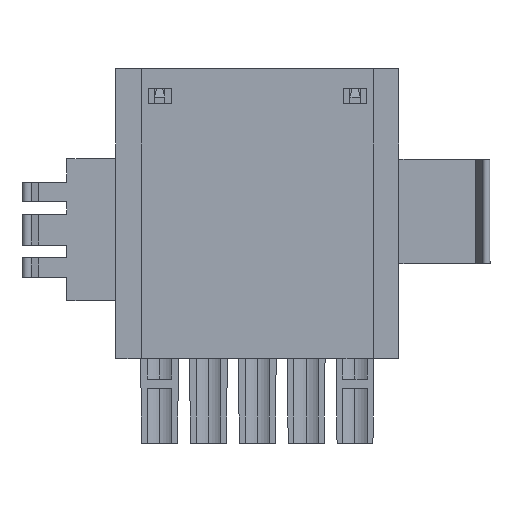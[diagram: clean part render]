
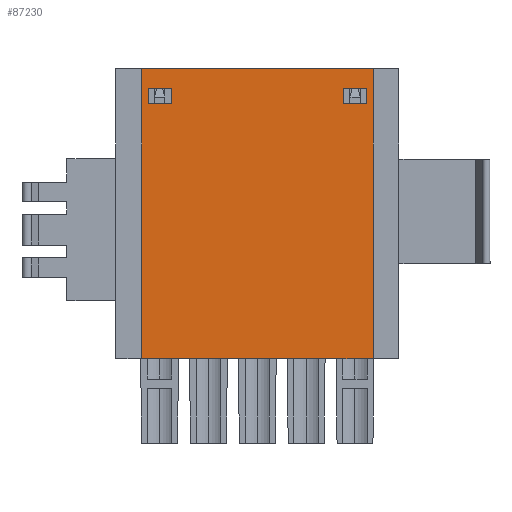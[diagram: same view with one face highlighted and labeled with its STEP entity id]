
A CAD part, front view. The second image highlights one B-rep face of the part: STEP entity #87230.
In plain terms, the highlighted planar face has unit normal (0, -1, 0).
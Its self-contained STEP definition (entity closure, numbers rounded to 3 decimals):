
#71780=CARTESIAN_POINT('',(-79.801,-2.817,10.825));
#71790=VERTEX_POINT('',#71780);
#71820=CARTESIAN_POINT('',(-79.801,-2.817,
-5.825));
#71830=DIRECTION('',(0.,0.,1.));
#71840=VECTOR('',#71830,1.);
#71850=LINE('',#71820,#71840);
#71860=CARTESIAN_POINT('',(-79.801,-2.817,
-7.235));
#71870=VERTEX_POINT('',#71860);
#71880=EDGE_CURVE('',#71870,#71790,#71850,.T.);
#72460=CARTESIAN_POINT('',(-58.701,-2.817,
-4.934));
#72470=VERTEX_POINT('',#72460);
#72500=CARTESIAN_POINT('',(-58.701,-2.817,
-5.825));
#72510=DIRECTION('',(0.,0.,1.));
#72520=VECTOR('',#72510,1.);
#72530=LINE('',#72500,#72520);
#72540=CARTESIAN_POINT('',(-58.701,-2.817,
-6.734));
#72550=VERTEX_POINT('',#72540);
#72560=EDGE_CURVE('',#72550,#72470,#72530,.T.);
#72830=CARTESIAN_POINT('',(-66.93,-2.817,
-7.235));
#72840=DIRECTION('',(1.,0.,0.));
#72850=VECTOR('',#72840,1.);
#72860=LINE('',#72830,#72850);
#72870=CARTESIAN_POINT('',(-57.201,-2.817,
-7.235));
#72880=VERTEX_POINT('',#72870);
#72890=EDGE_CURVE('',#71870,#72880,#72860,.T.);
#78640=CARTESIAN_POINT('',(-59.901,-2.817,
-6.734));
#78650=VERTEX_POINT('',#78640);
#78700=CARTESIAN_POINT('',(-59.901,-2.817,
-5.825));
#78710=DIRECTION('',(0.,0.,-1.));
#78720=VECTOR('',#78710,1.);
#78730=LINE('',#78700,#78720);
#78740=CARTESIAN_POINT('',(-59.901,-2.817,
-4.934));
#78750=VERTEX_POINT('',#78740);
#78760=EDGE_CURVE('',#78750,#78650,#78730,.T.);
#86370=CARTESIAN_POINT('',(-57.201,-2.817,
10.825));
#86380=VERTEX_POINT('',#86370);
#86410=CARTESIAN_POINT('',(-61.93,-2.817,
10.825));
#86420=DIRECTION('',(1.,0.,0.));
#86430=VECTOR('',#86420,1.);
#86440=LINE('',#86410,#86430);
#86450=EDGE_CURVE('',#71790,#86380,#86440,.T.);
#86570=CARTESIAN_POINT('',(-65.144,-2.817,
7.647));
#86580=DIRECTION('',(0.,-1.,0.));
#86590=DIRECTION('',(0.,0.,-1.));
#86600=AXIS2_PLACEMENT_3D('',#86570,#86580,#86590);
#86610=PLANE('',#86600);
#86620=CARTESIAN_POINT('',(-57.201,-2.817,
-5.825));
#86630=DIRECTION('',(0.,0.,-1.));
#86640=VECTOR('',#86630,1.);
#86650=LINE('',#86620,#86640);
#86660=EDGE_CURVE('',#86380,#72880,#86650,.T.);
#86670=ORIENTED_EDGE('',*,*,#86660,.F.);
#86680=ORIENTED_EDGE('',*,*,#72890,.T.);
#86690=ORIENTED_EDGE('',*,*,#71880,.F.);
#86700=ORIENTED_EDGE('',*,*,#86450,.F.);
#86710=EDGE_LOOP('',(#86700,#86690,#86680,#86670));
#86720=FACE_OUTER_BOUND('',#86710,.T.);
#86730=CARTESIAN_POINT('',(-61.93,-2.817,
-4.934));
#86740=DIRECTION('',(-1.,0.,0.));
#86750=VECTOR('',#86740,1.);
#86760=LINE('',#86730,#86750);
#86770=EDGE_CURVE('',#72470,#78750,#86760,.T.);
#86780=ORIENTED_EDGE('',*,*,#86770,.F.);
#86790=ORIENTED_EDGE('',*,*,#78760,.F.);
#86800=CARTESIAN_POINT('',(-61.93,-2.817,
-6.734));
#86810=DIRECTION('',(1.,0.,0.));
#86820=VECTOR('',#86810,1.);
#86830=LINE('',#86800,#86820);
#86840=EDGE_CURVE('',#78650,#72550,#86830,.T.);
#86850=ORIENTED_EDGE('',*,*,#86840,.F.);
#86860=ORIENTED_EDGE('',*,*,#72560,.F.);
#86870=EDGE_LOOP('',(#86860,#86850,#86790,#86780));
#86880=FACE_BOUND('',#86870,.T.);
#86890=CARTESIAN_POINT('',(-58.701,-2.817,
-5.825));
#86900=DIRECTION('',(0.,0.,1.));
#86910=VECTOR('',#86900,1.);
#86920=LINE('',#86890,#86910);
#86930=CARTESIAN_POINT('',(-58.701,-2.817,
8.506));
#86940=VERTEX_POINT('',#86930);
#86950=CARTESIAN_POINT('',(-58.701,-2.817,
10.306));
#86960=VERTEX_POINT('',#86950);
#86970=EDGE_CURVE('',#86940,#86960,#86920,.T.);
#86980=ORIENTED_EDGE('',*,*,#86970,.F.);
#86990=CARTESIAN_POINT('',(-61.93,-2.817,
10.306));
#87000=DIRECTION('',(-1.,0.,0.));
#87010=VECTOR('',#87000,1.);
#87020=LINE('',#86990,#87010);
#87030=CARTESIAN_POINT('',(-59.901,-2.817,
10.306));
#87040=VERTEX_POINT('',#87030);
#87050=EDGE_CURVE('',#86960,#87040,#87020,.T.);
#87060=ORIENTED_EDGE('',*,*,#87050,.F.);
#87070=CARTESIAN_POINT('',(-59.901,-2.817,
-5.825));
#87080=DIRECTION('',(0.,0.,-1.));
#87090=VECTOR('',#87080,1.);
#87100=LINE('',#87070,#87090);
#87110=CARTESIAN_POINT('',(-59.901,-2.817,
8.506));
#87120=VERTEX_POINT('',#87110);
#87130=EDGE_CURVE('',#87040,#87120,#87100,.T.);
#87140=ORIENTED_EDGE('',*,*,#87130,.F.);
#87150=CARTESIAN_POINT('',(-61.93,-2.817,
8.506));
#87160=DIRECTION('',(1.,0.,0.));
#87170=VECTOR('',#87160,1.);
#87180=LINE('',#87150,#87170);
#87190=EDGE_CURVE('',#87120,#86940,#87180,.T.);
#87200=ORIENTED_EDGE('',*,*,#87190,.F.);
#87210=EDGE_LOOP('',(#87200,#87140,#87060,#86980));
#87220=FACE_BOUND('',#87210,.T.);
#87230=ADVANCED_FACE('',(#86720,#86880,#87220),#86610,.T.);
